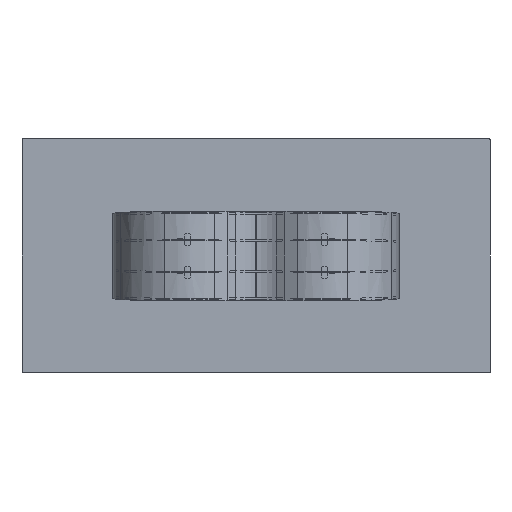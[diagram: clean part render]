
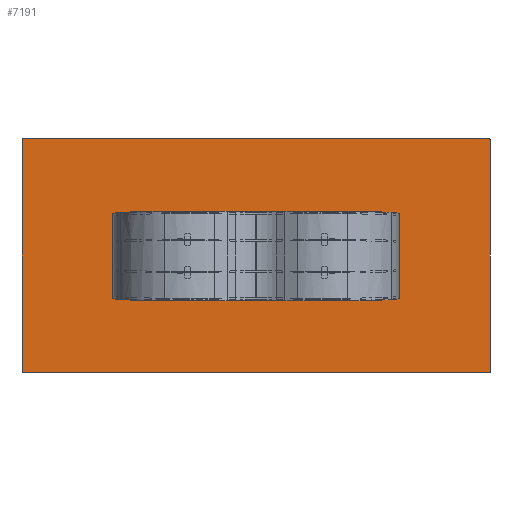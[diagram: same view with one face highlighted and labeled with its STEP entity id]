
A CAD part, front view. The second image highlights one B-rep face of the part: STEP entity #7191.
In plain terms, the highlighted planar face has unit normal (0, -1, 0).
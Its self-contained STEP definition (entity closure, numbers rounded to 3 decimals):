
#12 = ORIENTED_EDGE ( 'NONE', *, *, #19813, .T. ) ;
#532 = DIRECTION ( 'NONE',  ( -1., 0., 0. ) ) ;
#1679 = ORIENTED_EDGE ( 'NONE', *, *, #29118, .F. ) ;
#2046 = DIRECTION ( 'NONE',  ( 1., 0., 0. ) ) ;
#3159 = ORIENTED_EDGE ( 'NONE', *, *, #17685, .T. ) ;
#3208 = CARTESIAN_POINT ( 'NONE',  ( 1200., 0., 595. ) ) ;
#3733 = CARTESIAN_POINT ( 'NONE',  ( -1195., 0., 595. ) ) ;
#3925 = CARTESIAN_POINT ( 'NONE',  ( -1195., 0., 600. ) ) ;
#4342 = EDGE_CURVE ( 'NONE', #31316, #10746, #24836, .T. ) ;
#4930 = VERTEX_POINT ( 'NONE', #35333 ) ;
#5326 = DIRECTION ( 'NONE',  ( 0., 0., 1. ) ) ;
#5561 = AXIS2_PLACEMENT_3D ( 'NONE', #3733, #29365, #16815 ) ;
#5589 = PLANE ( 'NONE',  #31660 ) ;
#6225 = CIRCLE ( 'NONE', #5561, 5. ) ;
#6437 = CARTESIAN_POINT ( 'NONE',  ( 1195., 0., 600. ) ) ;
#6690 = CARTESIAN_POINT ( 'NONE',  ( -1200., 0., 595. ) ) ;
#7191 = ADVANCED_FACE ( 'NONE', ( #24123 ), #5589, .F. ) ;
#7277 = DIRECTION ( 'NONE',  ( 0., -1., 0. ) ) ;
#7479 = CARTESIAN_POINT ( 'NONE',  ( -1195., 0., -595. ) ) ;
#7481 = DIRECTION ( 'NONE',  ( 0., -1., 0. ) ) ;
#8194 = CIRCLE ( 'NONE', #23501, 5. ) ;
#8702 = LINE ( 'NONE', #27040, #40357 ) ;
#9689 = VECTOR ( 'NONE', #29881, 1000. ) ;
#10746 = VERTEX_POINT ( 'NONE', #6437 ) ;
#11601 = DIRECTION ( 'NONE',  ( 0., 0., 1. ) ) ;
#12070 = VERTEX_POINT ( 'NONE', #22295 ) ;
#13447 = ORIENTED_EDGE ( 'NONE', *, *, #17746, .T. ) ;
#14498 = VERTEX_POINT ( 'NONE', #41134 ) ;
#15174 = ORIENTED_EDGE ( 'NONE', *, *, #4342, .T. ) ;
#15688 = VERTEX_POINT ( 'NONE', #3925 ) ;
#15969 = EDGE_LOOP ( 'NONE', ( #29107, #15174, #25535, #3159, #1679, #13447, #39798, #12 ) ) ;
#16329 = LINE ( 'NONE', #29074, #16621 ) ;
#16508 = VERTEX_POINT ( 'NONE', #6690 ) ;
#16621 = VECTOR ( 'NONE', #532, 1000. ) ;
#16729 = LINE ( 'NONE', #33232, #9689 ) ;
#16815 = DIRECTION ( 'NONE',  ( 0., 0., 1. ) ) ;
#17685 = EDGE_CURVE ( 'NONE', #15688, #16508, #6225, .T. ) ;
#17746 = EDGE_CURVE ( 'NONE', #4930, #12070, #8194, .T. ) ;
#19426 = AXIS2_PLACEMENT_3D ( 'NONE', #37029, #39971, #5326 ) ;
#19813 = EDGE_CURVE ( 'NONE', #39606, #14498, #39570, .T. ) ;
#19943 = DIRECTION ( 'NONE',  ( 0., 0., 1. ) ) ;
#21403 = DIRECTION ( 'NONE',  ( 0., 1., 0. ) ) ;
#21554 = LINE ( 'NONE', #24701, #22337 ) ;
#21610 = EDGE_CURVE ( 'NONE', #39606, #12070, #16329, .T. ) ;
#22295 = CARTESIAN_POINT ( 'NONE',  ( -1195., 0., -600. ) ) ;
#22337 = VECTOR ( 'NONE', #24911, 1000. ) ;
#23501 = AXIS2_PLACEMENT_3D ( 'NONE', #7479, #7277, #19943 ) ;
#24123 = FACE_OUTER_BOUND ( 'NONE', #15969, .T. ) ;
#24701 = CARTESIAN_POINT ( 'NONE',  ( 1200., 0., -600. ) ) ;
#24836 = CIRCLE ( 'NONE', #26803, 5. ) ;
#24911 = DIRECTION ( 'NONE',  ( 0., 0., -1. ) ) ;
#25535 = ORIENTED_EDGE ( 'NONE', *, *, #27143, .F. ) ;
#26803 = AXIS2_PLACEMENT_3D ( 'NONE', #39202, #7481, #36465 ) ;
#27040 = CARTESIAN_POINT ( 'NONE',  ( -1200., 0., 600. ) ) ;
#27143 = EDGE_CURVE ( 'NONE', #15688, #10746, #8702, .T. ) ;
#28859 = EDGE_CURVE ( 'NONE', #31316, #14498, #21554, .T. ) ;
#29074 = CARTESIAN_POINT ( 'NONE',  ( -1200., 0., -600. ) ) ;
#29107 = ORIENTED_EDGE ( 'NONE', *, *, #28859, .F. ) ;
#29118 = EDGE_CURVE ( 'NONE', #4930, #16508, #16729, .T. ) ;
#29365 = DIRECTION ( 'NONE',  ( 0., -1., 0. ) ) ;
#29881 = DIRECTION ( 'NONE',  ( 0., 0., 1. ) ) ;
#30400 = CARTESIAN_POINT ( 'NONE',  ( 0., 0., 0. ) ) ;
#31175 = CARTESIAN_POINT ( 'NONE',  ( 1195., 0., -600. ) ) ;
#31316 = VERTEX_POINT ( 'NONE', #3208 ) ;
#31660 = AXIS2_PLACEMENT_3D ( 'NONE', #30400, #21403, #11601 ) ;
#33232 = CARTESIAN_POINT ( 'NONE',  ( -1200., 0., -600. ) ) ;
#35333 = CARTESIAN_POINT ( 'NONE',  ( -1200., 0., -595. ) ) ;
#36465 = DIRECTION ( 'NONE',  ( 0., 0., 1. ) ) ;
#37029 = CARTESIAN_POINT ( 'NONE',  ( 1195., 0., -595. ) ) ;
#39202 = CARTESIAN_POINT ( 'NONE',  ( 1195., 0., 595. ) ) ;
#39570 = CIRCLE ( 'NONE', #19426, 5. ) ;
#39606 = VERTEX_POINT ( 'NONE', #31175 ) ;
#39798 = ORIENTED_EDGE ( 'NONE', *, *, #21610, .F. ) ;
#39971 = DIRECTION ( 'NONE',  ( 0., -1., 0. ) ) ;
#40357 = VECTOR ( 'NONE', #2046, 1000. ) ;
#41134 = CARTESIAN_POINT ( 'NONE',  ( 1200., 0., -595. ) ) ;
